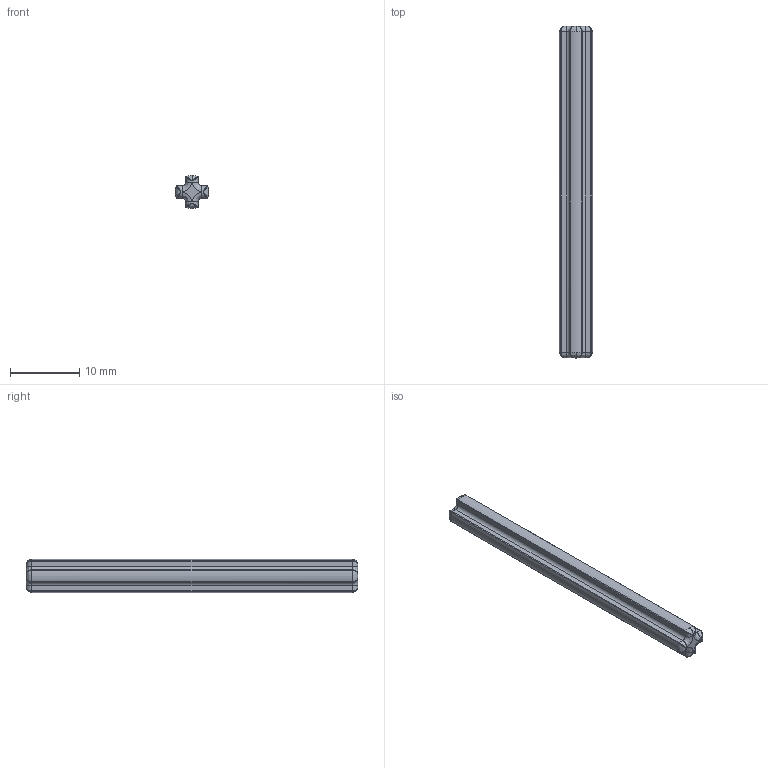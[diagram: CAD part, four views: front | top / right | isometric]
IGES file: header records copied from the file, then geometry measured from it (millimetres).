
Start section: C
Global section: file name: Black_370626_JCA.iges; native system: By Siemens PLM Incorporated; preprocessor: XPlus GENERIC/IGES 26.1.183; author: Author; organization: Title; date: 20250721.234253; units: millimetre
Bounding box: 4.8 x 48 x 4.8 mm (x, y, z)
Surface area: 830.6 mm2 (no closed solid volume)
Topology: 0 solids, 0 shells, 77 faces, 338 edges, 322 vertices
Faces by surface type: bspline 77
